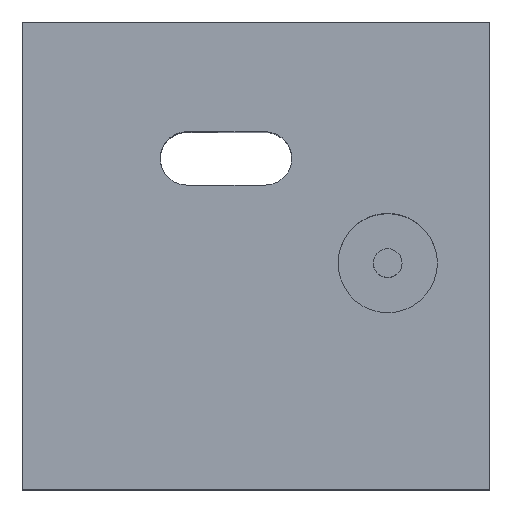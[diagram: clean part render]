
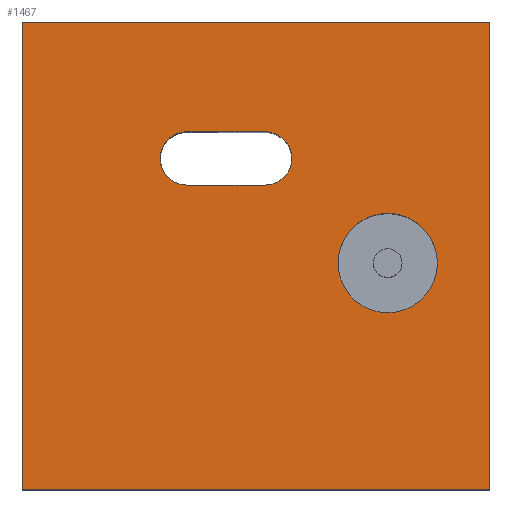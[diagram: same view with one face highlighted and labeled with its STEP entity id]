
A CAD part, top view. The second image highlights one B-rep face of the part: STEP entity #1467.
In plain terms, the highlighted planar face has unit normal (0, 0, 1).
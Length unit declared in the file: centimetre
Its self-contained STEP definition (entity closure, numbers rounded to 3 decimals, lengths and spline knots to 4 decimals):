
#34 = LINE ( 'NONE', #1319, #1068 ) ;
#48 = LINE ( 'NONE', #423, #1041 ) ;
#50 = VECTOR ( 'NONE', #510, 100. ) ;
#65 = LINE ( 'NONE', #1203, #1547 ) ;
#104 = FACE_BOUND ( 'NONE', #935, .T. ) ;
#105 = DIRECTION ( 'NONE',  ( 0., -1., 0. ) ) ;
#117 = DIRECTION ( 'NONE',  ( 1., 0., 0. ) ) ;
#121 = DIRECTION ( 'NONE',  ( 1., 0., 0. ) ) ;
#129 = CARTESIAN_POINT ( 'NONE',  ( 519.4562, 707.9986, 1000. ) ) ;
#141 = VERTEX_POINT ( 'NONE', #601 ) ;
#162 = VERTEX_POINT ( 'NONE', #1501 ) ;
#201 = CARTESIAN_POINT ( 'NONE',  ( 1000., 0., 1000. ) ) ;
#202 = ORIENTED_EDGE ( 'NONE', *, *, #431, .F. ) ;
#209 = VERTEX_POINT ( 'NONE', #1112 ) ;
#245 = CARTESIAN_POINT ( 'NONE',  ( 0., 1000., 1000. ) ) ;
#270 = ORIENTED_EDGE ( 'NONE', *, *, #784, .F. ) ;
#282 = ORIENTED_EDGE ( 'NONE', *, *, #546, .T. ) ;
#291 = DIRECTION ( 'NONE',  ( -1., 0., 0. ) ) ;
#328 = EDGE_CURVE ( 'NONE', #1399, #1405, #48, .T. ) ;
#344 = AXIS2_PLACEMENT_3D ( 'NONE', #742, #1371, #121 ) ;
#362 = PLANE ( 'NONE',  #344 ) ;
#373 = AXIS2_PLACEMENT_3D ( 'NONE', #1356, #471, #1599 ) ;
#398 = ORIENTED_EDGE ( 'NONE', *, *, #1081, .T. ) ;
#423 = CARTESIAN_POINT ( 'NONE',  ( 1000., 1000., 1000. ) ) ;
#427 = LINE ( 'NONE', #949, #1050 ) ;
#431 = EDGE_CURVE ( 'NONE', #1370, #966, #1279, .T. ) ;
#459 = EDGE_CURVE ( 'NONE', #806, #141, #833, .T. ) ;
#470 = CARTESIAN_POINT ( 'NONE',  ( 519.4562, 765.1101, 1000. ) ) ;
#471 = DIRECTION ( 'NONE',  ( 0., 0., 1. ) ) ;
#475 = CARTESIAN_POINT ( 'NONE',  ( 352.0107, 650.8871, 1000. ) ) ;
#510 = DIRECTION ( 'NONE',  ( -1., 0., 0. ) ) ;
#524 = EDGE_LOOP ( 'NONE', ( #398, #282, #1365, #794 ) ) ;
#546 = EDGE_CURVE ( 'NONE', #1545, #1399, #65, .T. ) ;
#584 = VERTEX_POINT ( 'NONE', #893 ) ;
#592 = DIRECTION ( 'NONE',  ( 1., 0., 0. ) ) ;
#599 = AXIS2_PLACEMENT_3D ( 'NONE', #1650, #746, #1383 ) ;
#601 = CARTESIAN_POINT ( 'NONE',  ( 675.6991, 484.0438, 1000. ) ) ;
#621 = EDGE_CURVE ( 'NONE', #162, #1185, #1102, .T. ) ;
#644 = EDGE_CURVE ( 'NONE', #141, #806, #1407, .T. ) ;
#645 = CARTESIAN_POINT ( 'NONE',  ( 781.9749, 484.0438, 1000. ) ) ;
#673 = CARTESIAN_POINT ( 'NONE',  ( 888.2507, 484.0438, 1000. ) ) ;
#685 = EDGE_LOOP ( 'NONE', ( #1168, #270, #202, #980, #1406 ) ) ;
#692 = DIRECTION ( 'NONE',  ( 0., 1., 0. ) ) ;
#714 = CARTESIAN_POINT ( 'NONE',  ( 1000., 1000., 1000. ) ) ;
#742 = CARTESIAN_POINT ( 'NONE',  ( 0., 0., 1000. ) ) ;
#746 = DIRECTION ( 'NONE',  ( 0., 0., 1. ) ) ;
#765 = VECTOR ( 'NONE', #105, 100. ) ;
#784 = EDGE_CURVE ( 'NONE', #966, #162, #34, .T. ) ;
#794 = ORIENTED_EDGE ( 'NONE', *, *, #1516, .T. ) ;
#806 = VERTEX_POINT ( 'NONE', #673 ) ;
#833 = CIRCLE ( 'NONE', #373, 106.2758 ) ;
#844 = DIRECTION ( 'NONE',  ( 1., 0., 0. ) ) ;
#893 = CARTESIAN_POINT ( 'NONE',  ( 519.4562, 650.8871, 1000. ) ) ;
#925 = EDGE_CURVE ( 'NONE', #1185, #584, #427, .T. ) ;
#935 = EDGE_LOOP ( 'NONE', ( #1628, #1008 ) ) ;
#949 = CARTESIAN_POINT ( 'NONE',  ( 352.0107, 650.8871, 1000. ) ) ;
#966 = VERTEX_POINT ( 'NONE', #470 ) ;
#980 = ORIENTED_EDGE ( 'NONE', *, *, #1575, .F. ) ;
#1008 = ORIENTED_EDGE ( 'NONE', *, *, #644, .F. ) ;
#1020 = AXIS2_PLACEMENT_3D ( 'NONE', #645, #1635, #117 ) ;
#1022 = CARTESIAN_POINT ( 'NONE',  ( 0., 1000., 1000. ) ) ;
#1041 = VECTOR ( 'NONE', #692, 100. ) ;
#1050 = VECTOR ( 'NONE', #592, 100. ) ;
#1068 = VECTOR ( 'NONE', #291, 100. ) ;
#1081 = EDGE_CURVE ( 'NONE', #209, #1545, #1368, .T. ) ;
#1102 = CIRCLE ( 'NONE', #599, 57.1115 ) ;
#1112 = CARTESIAN_POINT ( 'NONE',  ( 0., 1000., 1000. ) ) ;
#1147 = DIRECTION ( 'NONE',  ( 0., 0., 1. ) ) ;
#1148 = CARTESIAN_POINT ( 'NONE',  ( 0., 0., 1000. ) ) ;
#1157 = CARTESIAN_POINT ( 'NONE',  ( 519.4562, 707.9986, 1000. ) ) ;
#1168 = ORIENTED_EDGE ( 'NONE', *, *, #621, .F. ) ;
#1185 = VERTEX_POINT ( 'NONE', #475 ) ;
#1199 = AXIS2_PLACEMENT_3D ( 'NONE', #129, #1147, #1570 ) ;
#1203 = CARTESIAN_POINT ( 'NONE',  ( 0., 0., 1000. ) ) ;
#1248 = FACE_BOUND ( 'NONE', #685, .T. ) ;
#1279 = CIRCLE ( 'NONE', #1199, 57.1115 ) ;
#1319 = CARTESIAN_POINT ( 'NONE',  ( 519.4562, 765.1101, 1000. ) ) ;
#1353 = CARTESIAN_POINT ( 'NONE',  ( 576.5677, 707.9986, 1000. ) ) ;
#1356 = CARTESIAN_POINT ( 'NONE',  ( 781.9749, 484.0438, 1000. ) ) ;
#1365 = ORIENTED_EDGE ( 'NONE', *, *, #328, .T. ) ;
#1368 = LINE ( 'NONE', #1022, #765 ) ;
#1370 = VERTEX_POINT ( 'NONE', #1353 ) ;
#1371 = DIRECTION ( 'NONE',  ( 0., 0., 1. ) ) ;
#1383 = DIRECTION ( 'NONE',  ( 1., 0., 0. ) ) ;
#1399 = VERTEX_POINT ( 'NONE', #201 ) ;
#1405 = VERTEX_POINT ( 'NONE', #714 ) ;
#1406 = ORIENTED_EDGE ( 'NONE', *, *, #925, .F. ) ;
#1407 = CIRCLE ( 'NONE', #1020, 106.2758 ) ;
#1467 = ADVANCED_FACE ( 'NONE', ( #104, #1248, #1637 ), #362, .T. ) ;
#1501 = CARTESIAN_POINT ( 'NONE',  ( 352.0107, 765.1101, 1000. ) ) ;
#1505 = LINE ( 'NONE', #245, #50 ) ;
#1516 = EDGE_CURVE ( 'NONE', #1405, #209, #1505, .T. ) ;
#1521 = DIRECTION ( 'NONE',  ( 0., 0., 1. ) ) ;
#1531 = DIRECTION ( 'NONE',  ( 1., 0., 0. ) ) ;
#1536 = CIRCLE ( 'NONE', #1624, 57.1115 ) ;
#1545 = VERTEX_POINT ( 'NONE', #1148 ) ;
#1547 = VECTOR ( 'NONE', #844, 100. ) ;
#1570 = DIRECTION ( 'NONE',  ( 1., 0., 0. ) ) ;
#1575 = EDGE_CURVE ( 'NONE', #584, #1370, #1536, .T. ) ;
#1599 = DIRECTION ( 'NONE',  ( 1., 0., 0. ) ) ;
#1624 = AXIS2_PLACEMENT_3D ( 'NONE', #1157, #1521, #1531 ) ;
#1628 = ORIENTED_EDGE ( 'NONE', *, *, #459, .F. ) ;
#1635 = DIRECTION ( 'NONE',  ( 0., 0., 1. ) ) ;
#1637 = FACE_OUTER_BOUND ( 'NONE', #524, .T. ) ;
#1650 = CARTESIAN_POINT ( 'NONE',  ( 352.0107, 707.9986, 1000. ) ) ;
